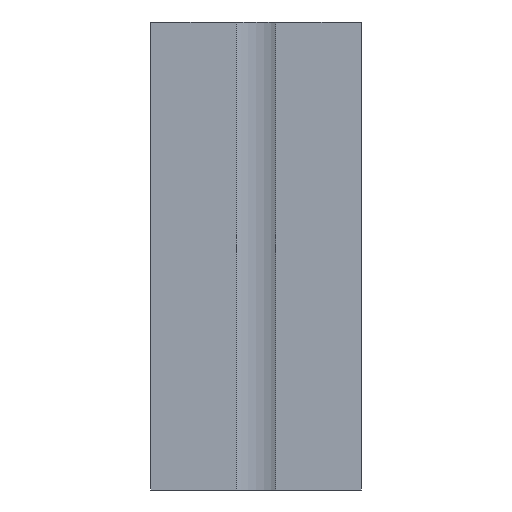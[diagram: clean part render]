
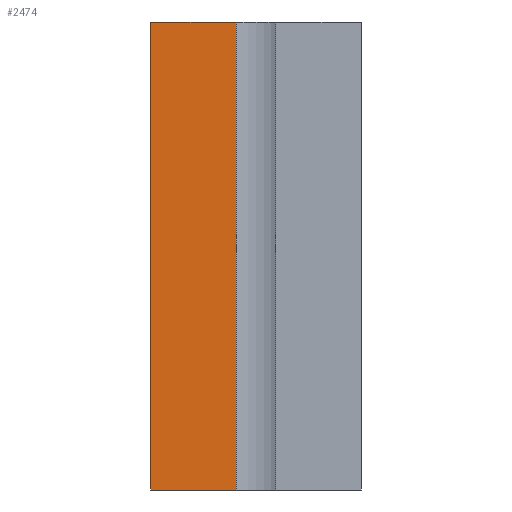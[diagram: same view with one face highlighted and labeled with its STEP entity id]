
A CAD part, front view. The second image highlights one B-rep face of the part: STEP entity #2474.
In plain terms, the highlighted planar face has unit normal (0, -1, 0).
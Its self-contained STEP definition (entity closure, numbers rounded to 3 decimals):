
#20=PLANE('',#2621);
#190=ORIENTED_EDGE('',*,*,#934,.F.);
#191=ORIENTED_EDGE('',*,*,#935,.F.);
#192=ORIENTED_EDGE('',*,*,#936,.F.);
#193=ORIENTED_EDGE('',*,*,#937,.F.);
#934=EDGE_CURVE('',#1306,#1307,#1546,.T.);
#935=EDGE_CURVE('',#1308,#1306,#1547,.T.);
#936=EDGE_CURVE('',#1309,#1308,#1548,.T.);
#937=EDGE_CURVE('',#1307,#1309,#1549,.T.);
#1306=VERTEX_POINT('',#3512);
#1307=VERTEX_POINT('',#3513);
#1308=VERTEX_POINT('',#3515);
#1309=VERTEX_POINT('',#3517);
#1546=LINE('',#3511,#1862);
#1547=LINE('',#3514,#1863);
#1548=LINE('',#3516,#1864);
#1549=LINE('',#3518,#1865);
#1862=VECTOR('',#2827,1000.);
#1863=VECTOR('',#2828,1000.);
#1864=VECTOR('',#2829,1000.);
#1865=VECTOR('',#2830,1000.);
#2174=EDGE_LOOP('',(#190,#191,#192,#193));
#2310=FACE_BOUND('',#2174,.T.);
#2474=ADVANCED_FACE('',(#2310),#20,.T.);
#2621=AXIS2_PLACEMENT_3D('',#3510,#2825,#2826);
#2825=DIRECTION('',(0.,-1.,0.));
#2826=DIRECTION('',(1.,0.,0.));
#2827=DIRECTION('',(1.,0.,0.));
#2828=DIRECTION('',(0.,0.,1.));
#2829=DIRECTION('',(-1.,0.,0.));
#2830=DIRECTION('',(0.,0.,-1.));
#3510=CARTESIAN_POINT('',(0.,-45.,0.));
#3511=CARTESIAN_POINT('',(18.3,-45.,50.));
#3512=CARTESIAN_POINT('',(0.,-45.,50.));
#3513=CARTESIAN_POINT('',(18.3,-45.,50.));
#3514=CARTESIAN_POINT('',(0.,-45.,-150.));
#3515=CARTESIAN_POINT('',(0.,-45.,-50.));
#3516=CARTESIAN_POINT('',(18.3,-45.,-50.));
#3517=CARTESIAN_POINT('',(18.3,-45.,-50.));
#3518=CARTESIAN_POINT('',(18.3,-45.,0.));
